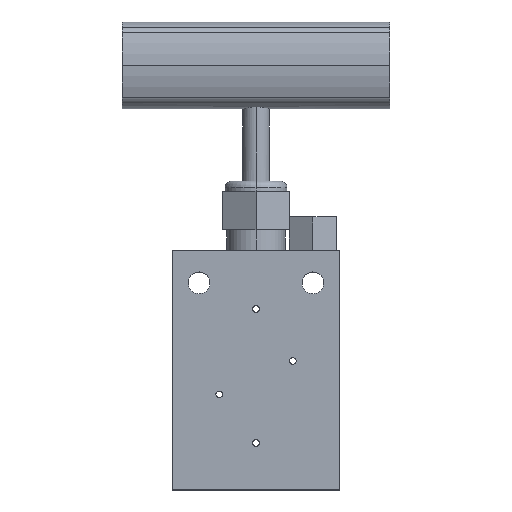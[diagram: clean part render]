
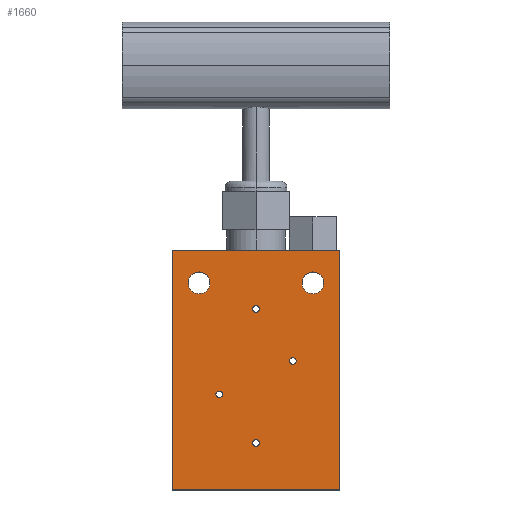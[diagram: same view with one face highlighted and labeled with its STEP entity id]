
A CAD part, top view. The second image highlights one B-rep face of the part: STEP entity #1660.
In plain terms, the highlighted planar face has unit normal (0, 0, 1).
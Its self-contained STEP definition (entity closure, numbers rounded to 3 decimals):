
#7 = CARTESIAN_POINT ( 'NONE',  ( -17., 23.55, 12.5 ) ) ;
#13 = VERTEX_POINT ( 'NONE', #1468 ) ;
#28 = DIRECTION ( 'NONE',  ( 1., 0., 0. ) ) ;
#100 = ORIENTED_EDGE ( 'NONE', *, *, #3554, .F. ) ;
#151 = CARTESIAN_POINT ( 'NONE',  ( 25., 33.25, 12.5 ) ) ;
#187 = AXIS2_PLACEMENT_3D ( 'NONE', #3504, #714, #28 ) ;
#191 = DIRECTION ( 'NONE',  ( 1., 0., 0. ) ) ;
#202 = CARTESIAN_POINT ( 'NONE',  ( 13.75, 23.55, 12.5 ) ) ;
#207 = CARTESIAN_POINT ( 'NONE',  ( -25., 33.25, 12.5 ) ) ;
#208 = DIRECTION ( 'NONE',  ( 1., 0., 0. ) ) ;
#297 = VECTOR ( 'NONE', #412, 1000. ) ;
#298 = ORIENTED_EDGE ( 'NONE', *, *, #3157, .F. ) ;
#305 = VERTEX_POINT ( 'NONE', #1030 ) ;
#318 = CARTESIAN_POINT ( 'NONE',  ( 10., 0.25, 12.5 ) ) ;
#326 = EDGE_CURVE ( 'NONE', #2600, #1173, #1314, .T. ) ;
#349 = CIRCLE ( 'NONE', #2864, 1. ) ;
#378 = EDGE_CURVE ( 'NONE', #1975, #3175, #2898, .T. ) ;
#379 = DIRECTION ( 'NONE',  ( 0., 0., 1. ) ) ;
#380 = CARTESIAN_POINT ( 'NONE',  ( 25., -38.25, 12.5 ) ) ;
#412 = DIRECTION ( 'NONE',  ( 0., -1., 0. ) ) ;
#423 = CARTESIAN_POINT ( 'NONE',  ( -11., -9.75, 12.5 ) ) ;
#445 = ORIENTED_EDGE ( 'NONE', *, *, #2831, .F. ) ;
#446 = CARTESIAN_POINT ( 'NONE',  ( 1., 15.75, 12.5 ) ) ;
#449 = AXIS2_PLACEMENT_3D ( 'NONE', #2115, #1630, #208 ) ;
#463 = AXIS2_PLACEMENT_3D ( 'NONE', #7, #891, #3645 ) ;
#468 = EDGE_LOOP ( 'NONE', ( #3452, #1838 ) ) ;
#521 = CARTESIAN_POINT ( 'NONE',  ( 12., 0.25, 12.5 ) ) ;
#526 = EDGE_LOOP ( 'NONE', ( #1158, #298 ) ) ;
#548 = EDGE_CURVE ( 'NONE', #1173, #2184, #1753, .T. ) ;
#557 = VERTEX_POINT ( 'NONE', #1192 ) ;
#613 = CARTESIAN_POINT ( 'NONE',  ( 17., 23.55, 12.5 ) ) ;
#615 = EDGE_LOOP ( 'NONE', ( #2957, #1464 ) ) ;
#714 = DIRECTION ( 'NONE',  ( 0., 0., 1. ) ) ;
#734 = CARTESIAN_POINT ( 'NONE',  ( 0., 0., 12.5 ) ) ;
#754 = FACE_BOUND ( 'NONE', #468, .T. ) ;
#783 = DIRECTION ( 'NONE',  ( 1., 0., 0. ) ) ;
#809 = CARTESIAN_POINT ( 'NONE',  ( 17., 23.55, 12.5 ) ) ;
#886 = ORIENTED_EDGE ( 'NONE', *, *, #1910, .T. ) ;
#889 = CIRCLE ( 'NONE', #2944, 3.25 ) ;
#891 = DIRECTION ( 'NONE',  ( 0., 0., 1. ) ) ;
#916 = EDGE_CURVE ( 'NONE', #1025, #962, #2815, .T. ) ;
#944 = DIRECTION ( 'NONE',  ( 1., 0., 0. ) ) ;
#948 = AXIS2_PLACEMENT_3D ( 'NONE', #2143, #1027, #783 ) ;
#962 = VERTEX_POINT ( 'NONE', #1310 ) ;
#982 = EDGE_LOOP ( 'NONE', ( #100, #992 ) ) ;
#989 = CIRCLE ( 'NONE', #3564, 3.25 ) ;
#992 = ORIENTED_EDGE ( 'NONE', *, *, #2237, .F. ) ;
#1025 = VERTEX_POINT ( 'NONE', #2637 ) ;
#1027 = DIRECTION ( 'NONE',  ( 0., 0., 1. ) ) ;
#1030 = CARTESIAN_POINT ( 'NONE',  ( -13.75, 23.55, 12.5 ) ) ;
#1066 = VERTEX_POINT ( 'NONE', #446 ) ;
#1077 = DIRECTION ( 'NONE',  ( 0., 0., 1. ) ) ;
#1078 = ORIENTED_EDGE ( 'NONE', *, *, #548, .T. ) ;
#1141 = VECTOR ( 'NONE', #1481, 1000. ) ;
#1158 = ORIENTED_EDGE ( 'NONE', *, *, #2667, .F. ) ;
#1163 = AXIS2_PLACEMENT_3D ( 'NONE', #734, #1279, #191 ) ;
#1173 = VERTEX_POINT ( 'NONE', #2517 ) ;
#1192 = CARTESIAN_POINT ( 'NONE',  ( -12., -9.75, 12.5 ) ) ;
#1219 = CARTESIAN_POINT ( 'NONE',  ( -25., 33.25, 12.5 ) ) ;
#1222 = DIRECTION ( 'NONE',  ( -1., 0., 0. ) ) ;
#1261 = FACE_BOUND ( 'NONE', #3390, .T. ) ;
#1279 = DIRECTION ( 'NONE',  ( 0., 0., 1. ) ) ;
#1281 = DIRECTION ( 'NONE',  ( 0., 1., 0. ) ) ;
#1291 = VERTEX_POINT ( 'NONE', #2983 ) ;
#1294 = LINE ( 'NONE', #3224, #297 ) ;
#1310 = CARTESIAN_POINT ( 'NONE',  ( -1., -24.25, 12.5 ) ) ;
#1314 = LINE ( 'NONE', #151, #1570 ) ;
#1349 = CIRCLE ( 'NONE', #948, 1. ) ;
#1351 = VERTEX_POINT ( 'NONE', #202 ) ;
#1395 = ORIENTED_EDGE ( 'NONE', *, *, #2055, .F. ) ;
#1464 = ORIENTED_EDGE ( 'NONE', *, *, #2012, .F. ) ;
#1466 = CIRCLE ( 'NONE', #3293, 3.25 ) ;
#1468 = CARTESIAN_POINT ( 'NONE',  ( -20.25, 23.55, 12.5 ) ) ;
#1469 = CARTESIAN_POINT ( 'NONE',  ( -17., 23.55, 12.5 ) ) ;
#1473 = DIRECTION ( 'NONE',  ( 0., 0., 1. ) ) ;
#1481 = DIRECTION ( 'NONE',  ( -1., 0., 0. ) ) ;
#1500 = EDGE_CURVE ( 'NONE', #3471, #2600, #3385, .T. ) ;
#1553 = DIRECTION ( 'NONE',  ( 0., 0., 1. ) ) ;
#1570 = VECTOR ( 'NONE', #1281, 1000. ) ;
#1630 = DIRECTION ( 'NONE',  ( 0., 0., 1. ) ) ;
#1632 = CIRCLE ( 'NONE', #1952, 1. ) ;
#1660 = ADVANCED_FACE ( 'NONE', ( #2394, #2114, #754, #3284, #2947, #1261, #3267 ), #2093, .T. ) ;
#1674 = DIRECTION ( 'NONE',  ( 0., 0., 1. ) ) ;
#1753 = LINE ( 'NONE', #1219, #1141 ) ;
#1825 = CARTESIAN_POINT ( 'NONE',  ( 11., 0.25, 12.5 ) ) ;
#1838 = ORIENTED_EDGE ( 'NONE', *, *, #2323, .F. ) ;
#1910 = EDGE_CURVE ( 'NONE', #2184, #3471, #1294, .T. ) ;
#1918 = VERTEX_POINT ( 'NONE', #3328 ) ;
#1952 = AXIS2_PLACEMENT_3D ( 'NONE', #423, #1553, #2652 ) ;
#1964 = DIRECTION ( 'NONE',  ( 1., 0., 0. ) ) ;
#1975 = VERTEX_POINT ( 'NONE', #318 ) ;
#2012 = EDGE_CURVE ( 'NONE', #1918, #1066, #2641, .T. ) ;
#2050 = DIRECTION ( 'NONE',  ( 0., 0., 1. ) ) ;
#2055 = EDGE_CURVE ( 'NONE', #2830, #1351, #889, .T. ) ;
#2080 = EDGE_CURVE ( 'NONE', #1066, #1918, #1349, .T. ) ;
#2093 = PLANE ( 'NONE',  #1163 ) ;
#2112 = CARTESIAN_POINT ( 'NONE',  ( 0., -24.25, 12.5 ) ) ;
#2114 = FACE_BOUND ( 'NONE', #2192, .T. ) ;
#2115 = CARTESIAN_POINT ( 'NONE',  ( 11., 0.25, 12.5 ) ) ;
#2143 = CARTESIAN_POINT ( 'NONE',  ( 0., 15.75, 12.5 ) ) ;
#2162 = DIRECTION ( 'NONE',  ( 1., 0., 0. ) ) ;
#2184 = VERTEX_POINT ( 'NONE', #207 ) ;
#2191 = ORIENTED_EDGE ( 'NONE', *, *, #378, .F. ) ;
#2192 = EDGE_LOOP ( 'NONE', ( #3056, #2191 ) ) ;
#2231 = CARTESIAN_POINT ( 'NONE',  ( 0., -24.25, 12.5 ) ) ;
#2237 = EDGE_CURVE ( 'NONE', #13, #305, #1466, .T. ) ;
#2323 = EDGE_CURVE ( 'NONE', #962, #1025, #3464, .T. ) ;
#2352 = CARTESIAN_POINT ( 'NONE',  ( -25., -38.25, 12.5 ) ) ;
#2394 = FACE_BOUND ( 'NONE', #615, .T. ) ;
#2419 = EDGE_CURVE ( 'NONE', #3175, #1975, #349, .T. ) ;
#2517 = CARTESIAN_POINT ( 'NONE',  ( 25., 33.25, 12.5 ) ) ;
#2545 = ORIENTED_EDGE ( 'NONE', *, *, #326, .T. ) ;
#2571 = DIRECTION ( 'NONE',  ( -1., 0., 0. ) ) ;
#2600 = VERTEX_POINT ( 'NONE', #380 ) ;
#2636 = AXIS2_PLACEMENT_3D ( 'NONE', #2231, #3372, #1964 ) ;
#2637 = CARTESIAN_POINT ( 'NONE',  ( 1., -24.25, 12.5 ) ) ;
#2641 = CIRCLE ( 'NONE', #187, 1. ) ;
#2652 = DIRECTION ( 'NONE',  ( 1., 0., 0. ) ) ;
#2667 = EDGE_CURVE ( 'NONE', #1291, #557, #1632, .T. ) ;
#2815 = CIRCLE ( 'NONE', #3116, 1. ) ;
#2830 = VERTEX_POINT ( 'NONE', #3144 ) ;
#2831 = EDGE_CURVE ( 'NONE', #1351, #2830, #989, .T. ) ;
#2858 = VECTOR ( 'NONE', #3510, 1000. ) ;
#2864 = AXIS2_PLACEMENT_3D ( 'NONE', #1825, #3457, #944 ) ;
#2898 = CIRCLE ( 'NONE', #449, 1. ) ;
#2944 = AXIS2_PLACEMENT_3D ( 'NONE', #809, #1473, #2571 ) ;
#2947 = FACE_BOUND ( 'NONE', #982, .T. ) ;
#2957 = ORIENTED_EDGE ( 'NONE', *, *, #2080, .F. ) ;
#2983 = CARTESIAN_POINT ( 'NONE',  ( -10., -9.75, 12.5 ) ) ;
#3056 = ORIENTED_EDGE ( 'NONE', *, *, #2419, .F. ) ;
#3063 = EDGE_LOOP ( 'NONE', ( #886, #3519, #2545, #1078 ) ) ;
#3116 = AXIS2_PLACEMENT_3D ( 'NONE', #2112, #2050, #3503 ) ;
#3144 = CARTESIAN_POINT ( 'NONE',  ( 20.25, 23.55, 12.5 ) ) ;
#3157 = EDGE_CURVE ( 'NONE', #557, #1291, #3210, .T. ) ;
#3175 = VERTEX_POINT ( 'NONE', #521 ) ;
#3210 = CIRCLE ( 'NONE', #3320, 1. ) ;
#3224 = CARTESIAN_POINT ( 'NONE',  ( -25., 33.25, 12.5 ) ) ;
#3267 = FACE_OUTER_BOUND ( 'NONE', #3063, .T. ) ;
#3284 = FACE_BOUND ( 'NONE', #526, .T. ) ;
#3293 = AXIS2_PLACEMENT_3D ( 'NONE', #1469, #1674, #3411 ) ;
#3320 = AXIS2_PLACEMENT_3D ( 'NONE', #3597, #1077, #2162 ) ;
#3328 = CARTESIAN_POINT ( 'NONE',  ( -1., 15.75, 12.5 ) ) ;
#3372 = DIRECTION ( 'NONE',  ( 0., 0., 1. ) ) ;
#3385 = LINE ( 'NONE', #2352, #2858 ) ;
#3390 = EDGE_LOOP ( 'NONE', ( #1395, #445 ) ) ;
#3411 = DIRECTION ( 'NONE',  ( 1., 0., 0. ) ) ;
#3440 = CIRCLE ( 'NONE', #463, 3.25 ) ;
#3452 = ORIENTED_EDGE ( 'NONE', *, *, #916, .F. ) ;
#3457 = DIRECTION ( 'NONE',  ( 0., 0., 1. ) ) ;
#3464 = CIRCLE ( 'NONE', #2636, 1. ) ;
#3471 = VERTEX_POINT ( 'NONE', #3561 ) ;
#3503 = DIRECTION ( 'NONE',  ( 1., 0., 0. ) ) ;
#3504 = CARTESIAN_POINT ( 'NONE',  ( 0., 15.75, 12.5 ) ) ;
#3510 = DIRECTION ( 'NONE',  ( 1., 0., 0. ) ) ;
#3519 = ORIENTED_EDGE ( 'NONE', *, *, #1500, .T. ) ;
#3554 = EDGE_CURVE ( 'NONE', #305, #13, #3440, .T. ) ;
#3561 = CARTESIAN_POINT ( 'NONE',  ( -25., -38.25, 12.5 ) ) ;
#3564 = AXIS2_PLACEMENT_3D ( 'NONE', #613, #379, #1222 ) ;
#3597 = CARTESIAN_POINT ( 'NONE',  ( -11., -9.75, 12.5 ) ) ;
#3645 = DIRECTION ( 'NONE',  ( 1., 0., 0. ) ) ;
